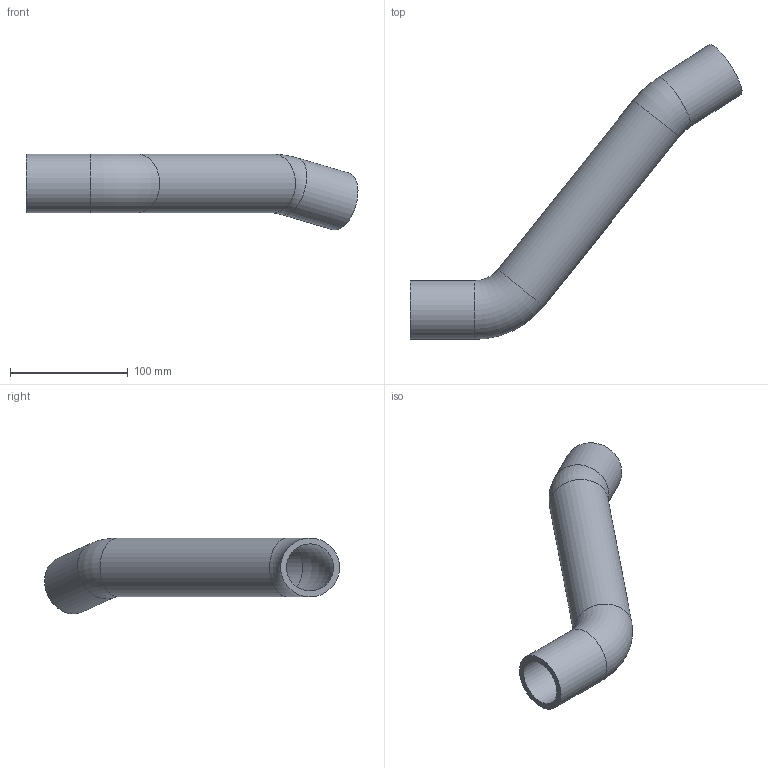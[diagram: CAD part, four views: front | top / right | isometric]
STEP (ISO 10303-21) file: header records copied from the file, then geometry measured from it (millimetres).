
FILE_DESCRIPTION(/* description */ ('Alibre Inc.'),/* implementation_level */ '2;1');
FILE_NAME(/* name */ 'export0',/* time_stamp */ '2007-06-12T08:11:51+02:00',/* author */ (''),/* organization */ (''),/* preprocessor_version */ 'ST-DEVELOPER v10',/* originating_system */ 'Alibre',/* authorisation */ '');
FILE_SCHEMA (('ALIBRE_SCHEMA','CONFIG_CONTROL_DESIGN'));
Length unit declared in the file: millimetre
Products named in the file (1): ID_1
Bounding box: 282.08 x 250.55 x 64.55 mm (x, y, z)
Volume: 252995.4 mm3; surface area: 102611.9 mm2
Topology: 1 solids, 1 shells, 12 faces, 22 edges, 12 vertices
Faces by surface type: cylinder 6, torus 4, plane 2
Full cylindrical faces by diameter (mm): 40 x3, 50 x3
Entity records: 860 total; most frequent: PERSISTANTTOPOLOGYATTRIBUTE 78, CARTESIAN_POINT 78, DIRECTION 72, AXIS2_PLACEMENT_3D 32, CONSTRAINTPAIRXYZ 29, INTEGERVALUEPAIR 28, REFERENCEDEPENDENTXYZ 27, ORIENTED_EDGE 24
